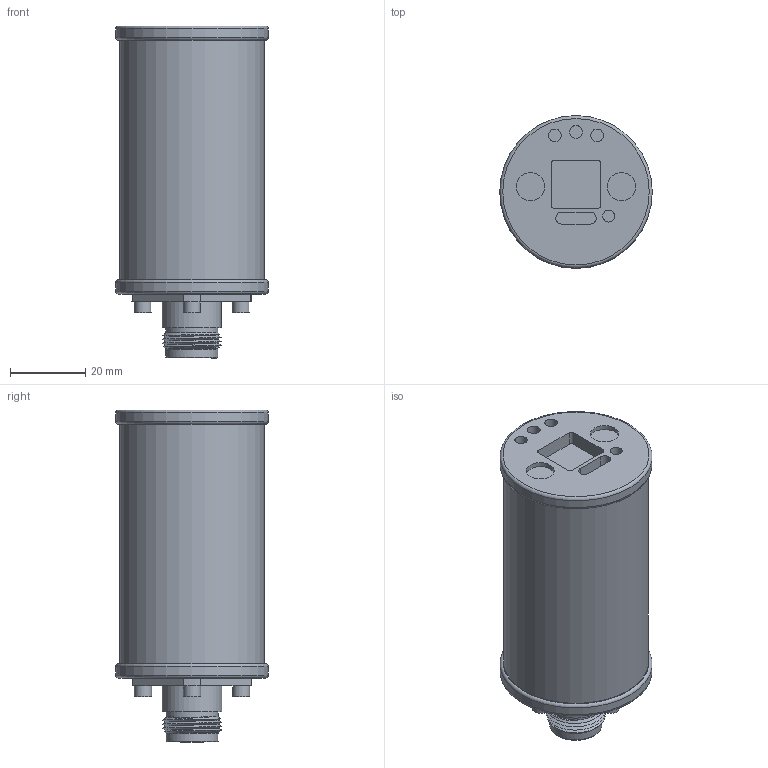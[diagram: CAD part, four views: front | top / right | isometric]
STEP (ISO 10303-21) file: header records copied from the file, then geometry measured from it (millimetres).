
FILE_DESCRIPTION(/* description */ (''),/* implementation_level */ '2;1');
FILE_NAME(/* name */ 'NEWLB478_479_480_TYPE-N_Female.step',/* time_stamp */ '2023-10-13T16:25:31-05:00',/* author */ (''),/* organization */ (''),/* preprocessor_version */ 'ST-DEVELOPER v20',/* originating_system */ 'Autodesk Translation Framework v12.9.0.99',/* authorisation */ '');
FILE_SCHEMA (('AUTOMOTIVE_DESIGN { 1 0 10303 214 3 1 1 }'));
Length unit declared in the file: inch
Products named in the file (2): (Unsaved); type-N F v1
Assembly tree (1 placements, depth 2):
  (Unsaved)
    type-N F v1
Bounding box: 40.44 x 40.44 x 88.07 mm (x, y, z)
Volume: 86264.1 mm3; surface area: 14931.4 mm2
Topology: 3 solids, 3 shells, 103 faces, 228 edges, 151 vertices
Faces by surface type: plane 61, cylinder 30, torus 6, cone 4, bspline 2
Full cylindrical faces by diameter (mm): 3.175 x1, 3.354 x2, 3.365 x1, 4.572 x4, 7.493 x2, 8.382 x1, 13.843 x5, 15.748 x1, 38.354 x1, 40.437 x2
Entity records: 4495 total; most frequent: CARTESIAN_POINT 2110, DIRECTION 490, ORIENTED_EDGE 456, EDGE_CURVE 228, AXIS2_PLACEMENT_3D 176, VERTEX_POINT 151, LINE 138, VECTOR 138
